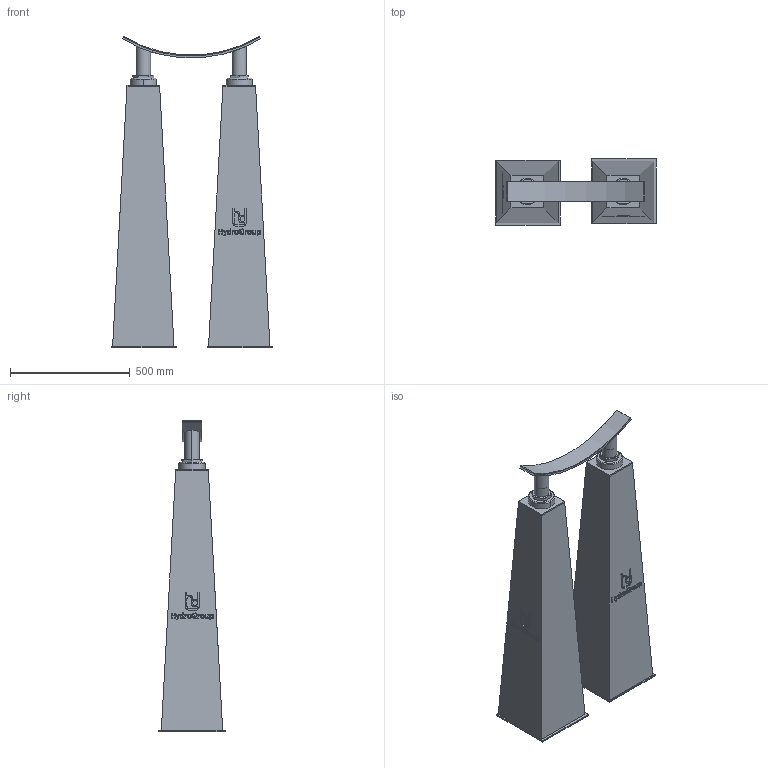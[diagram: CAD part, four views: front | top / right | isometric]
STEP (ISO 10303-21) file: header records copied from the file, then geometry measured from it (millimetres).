
FILE_DESCRIPTION(('STEP AP214'),'1');
FILE_NAME('RSRFE-IV-DUO_DN1100.stp','2018-06-29T11:39:16',(' '),(' '),'Spatial InterOp 3D',' ',' ');
FILE_SCHEMA(('automotive_design'));
Length unit declared in the file: millimetre
Products named in the file (10): 1; 2; 3; 4; 5; 6; 7; 8; 9; 10
Bounding box: 670 x 276.01 x 1298.66 mm (x, y, z)
Volume: 89946813.8 mm3; surface area: 2668551.5 mm2
Topology: 10 solids, 12 shells, 422 faces, 1042 edges, 680 vertices
Faces by surface type: plane 270, cylinder 72, extrusion 48, cone 32
Entity records: 17769 total; most frequent: CARTESIAN_POINT 4282, ORIENTED_EDGE 2084, DIRECTION 1882, EDGE_CURVE 1042, VECTOR 802, LINE 754, VERTEX_POINT 680, AXIS2_PLACEMENT_3D 540
